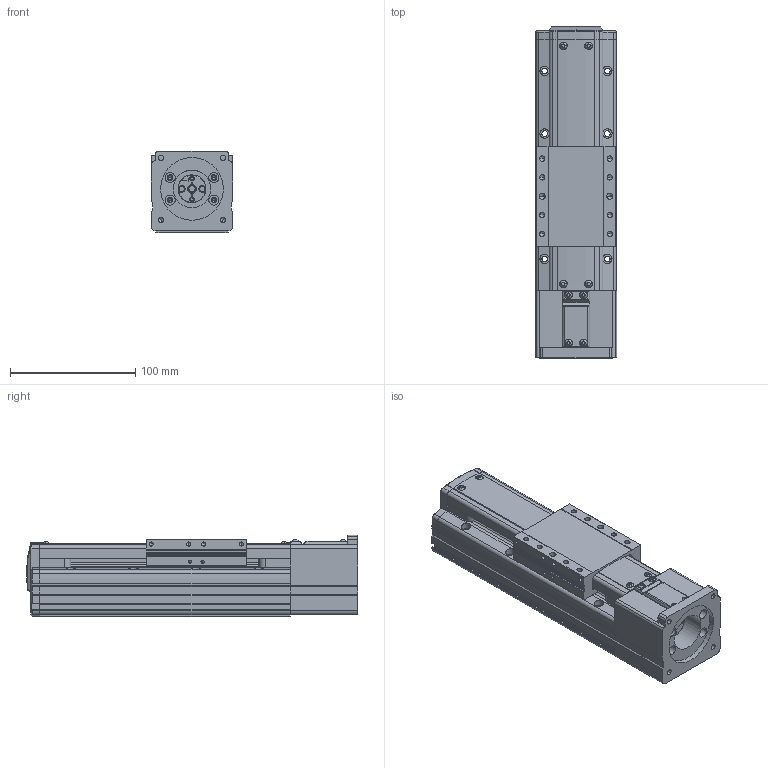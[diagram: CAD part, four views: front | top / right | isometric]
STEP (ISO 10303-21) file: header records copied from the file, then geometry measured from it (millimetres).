
FILE_DESCRIPTION(('STEP AP214'),'1');
FILE_NAME('Z:/Web/3D/PSA65/STP/PSA65-050 (3D)/PSA65ㅁㅁ-050S.stp','2014-06-25T02:36:51',(' '),(' '),'Spatial InterOp 3D',' ',' ');
FILE_SCHEMA(('automotive_design'));
Length unit declared in the file: millimetre
Products named in the file (80): SLIDE; RRCV-PA060; 1; 2; 3; 4; 5; 6; 7; 8; 9; 10; 11; 12; 13; 14; 15; 16; 17; 18; 19; 20; 21; 22; 23; 24; 25; 26; 27; 28; 29; 30; 31; 스크루 : Round - M3.0 x 8.0; RN8 x 0.75; SHAFT-SAN65; BASE; 스크루 : Round - M3.0 x 6.0; MTHZ - PSA65-60A; CPLCV-SAN45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
Bounding box: 65 x 264.8 x 65 mm (x, y, z)
Volume: 835769.3 mm3; surface area: 153306.7 mm2
Topology: 80 solids, 80 shells, 2262 faces, 5977 edges, 3844 vertices
Faces by surface type: plane 1208, cylinder 694, cone 287, sphere 30, bspline 23, torus 20
Entity records: 91236 total; most frequent: CARTESIAN_POINT 14797, DIRECTION 12239, ORIENTED_EDGE 11770, EDGE_CURVE 5885, AXIS2_PLACEMENT_3D 4224, VERTEX_POINT 3844, LINE 3791, VECTOR 3791
